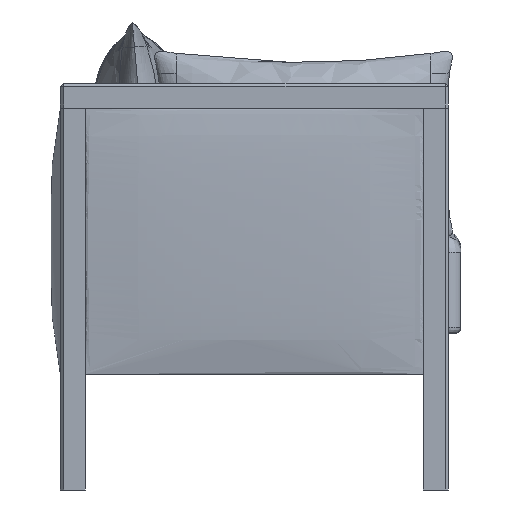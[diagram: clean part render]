
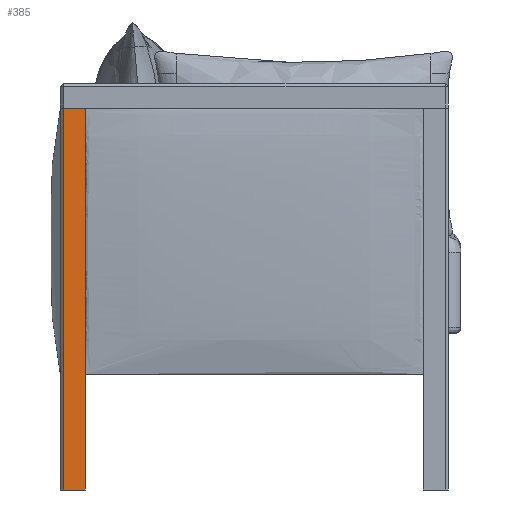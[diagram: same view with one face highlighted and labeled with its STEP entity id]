
A CAD part, left-side view. The second image highlights one B-rep face of the part: STEP entity #385.
In plain terms, the highlighted planar face has unit normal (-1, 0, 0).
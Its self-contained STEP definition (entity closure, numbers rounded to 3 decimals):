
#171=PLANE('',#2662);
#385=ADVANCED_FACE('',(#566),#171,.T.);
#566=FACE_OUTER_BOUND('',#747,.T.);
#747=EDGE_LOOP('',(#1386,#1387,#1388,#1389));
#1386=ORIENTED_EDGE('',*,*,#1868,.T.);
#1387=ORIENTED_EDGE('',*,*,#1865,.T.);
#1388=ORIENTED_EDGE('',*,*,#1859,.T.);
#1389=ORIENTED_EDGE('',*,*,#1866,.F.);
#1859=EDGE_CURVE('',#2468,#2471,#2192,.T.);
#1865=EDGE_CURVE('',#2476,#2468,#2198,.T.);
#1866=EDGE_CURVE('',#2477,#2471,#2199,.T.);
#1868=EDGE_CURVE('',#2477,#2476,#2201,.T.);
#2192=B_SPLINE_CURVE_WITH_KNOTS('',1,(#113736,#113737),.UNSPECIFIED.,.F.,
 .F.,(2,2),(0.,610.),.UNSPECIFIED.);
#2198=B_SPLINE_CURVE_WITH_KNOTS('',1,(#113748,#113749),.UNSPECIFIED.,.F.,
 .F.,(2,2),(125.,160.),.UNSPECIFIED.);
#2199=B_SPLINE_CURVE_WITH_KNOTS('',1,(#113750,#113751),.UNSPECIFIED.,.F.,
 .F.,(2,2),(125.,160.),.UNSPECIFIED.);
#2201=B_SPLINE_CURVE_WITH_KNOTS('',1,(#113754,#113755),.UNSPECIFIED.,.F.,
 .F.,(2,2),(0.,610.),.UNSPECIFIED.);
#2468=VERTEX_POINT('',#113720);
#2471=VERTEX_POINT('',#113723);
#2476=VERTEX_POINT('',#113728);
#2477=VERTEX_POINT('',#113729);
#2662=AXIS2_PLACEMENT_3D('',#113715,#2739,$);
#2739=DIRECTION('',(-1.,0.,0.));
#113715=CARTESIAN_POINT('',(905.773,639.951,0.));
#113720=CARTESIAN_POINT('',(905.773,599.951,0.));
#113723=CARTESIAN_POINT('',(905.773,599.951,610.));
#113728=CARTESIAN_POINT('',(905.773,634.951,0.));
#113729=CARTESIAN_POINT('',(905.773,634.951,610.));
#113736=CARTESIAN_POINT('',(905.773,599.951,0.));
#113737=CARTESIAN_POINT('',(905.773,599.951,610.));
#113748=CARTESIAN_POINT('',(905.773,634.951,0.));
#113749=CARTESIAN_POINT('',(905.773,599.951,0.));
#113750=CARTESIAN_POINT('',(905.773,634.951,610.));
#113751=CARTESIAN_POINT('',(905.773,599.951,610.));
#113754=CARTESIAN_POINT('',(905.773,634.951,610.));
#113755=CARTESIAN_POINT('',(905.773,634.951,0.));
